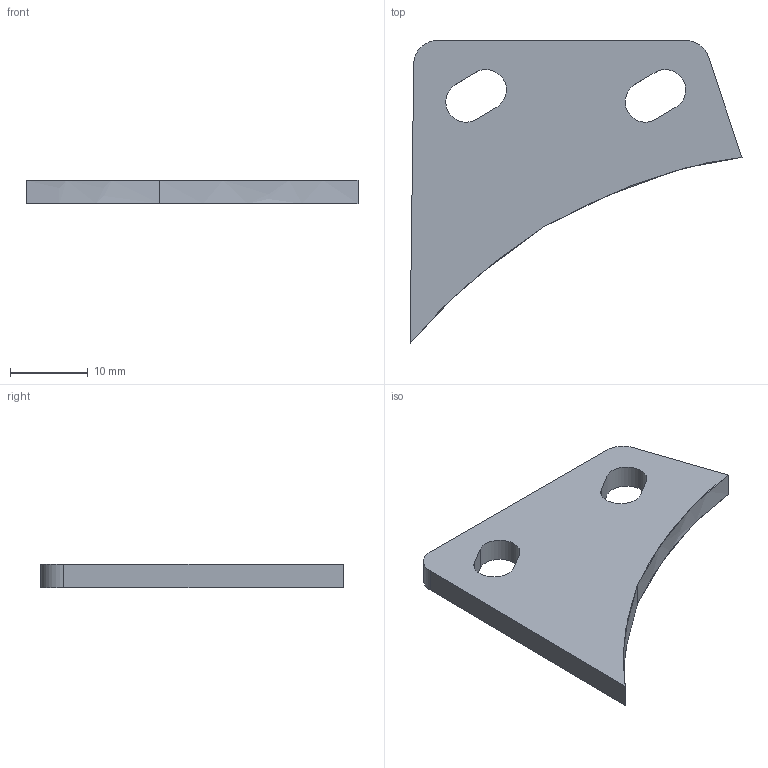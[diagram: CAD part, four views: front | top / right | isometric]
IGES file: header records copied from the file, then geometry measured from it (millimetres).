
Start section: START RECORD GO HERE.
Global section: file name: 20M_EN_13010 (Chape 1 Throttle Body).igs; native system: IBM CATIA IGES - CATIA Version 5 Release 19 ; preprocessor: CATIA Version 5 Release 19 ; author: Aimery SAULIERE; organization: MRY-987EC; date: 20200117.132504; units: millimetre
Bounding box: 42.57 x 38.83 x 3 mm (x, y, z)
Surface area: 2296.6 mm2 (no closed solid volume)
Topology: 0 solids, 0 shells, 17 faces, 92 edges, 96 vertices
Faces by surface type: plane 9, revolution 6, extrusion 2
